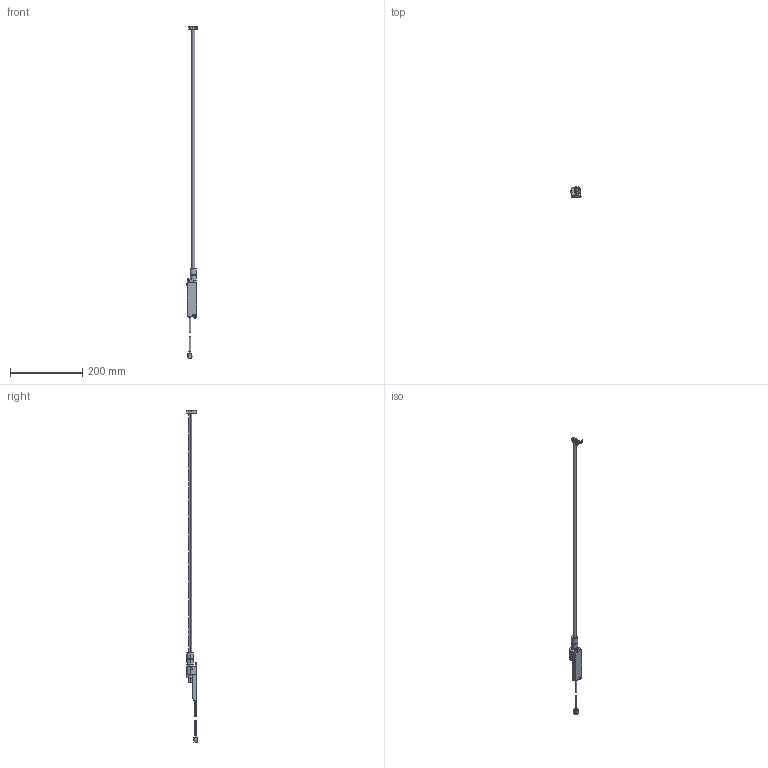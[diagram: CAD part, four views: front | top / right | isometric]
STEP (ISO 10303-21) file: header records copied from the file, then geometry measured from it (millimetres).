
FILE_DESCRIPTION (( 'STEP AP203' ), '1' );
FILE_NAME ('ER-VS01(+ER-VAB065).STEP', '2005-09-05T00:27:46', ( '' ), ( '' ), 'SwSTEP 2.0', 'SolidWorks 2004073', '' );
FILE_SCHEMA (( 'CONFIG_CONTROL_DESIGN' ));
Length unit declared in the file: millimetre
Products named in the file (3): ER-VAB065_蹬怮椔; ER-VS01_蹬怮椔; ER-VS01(+ER-VAB065)
Assembly tree (2 placements, depth 2):
  ER-VS01(+ER-VAB065)
    ER-VS01_蹬怮椔
    ER-VAB065_蹬怮椔
Bounding box: 33 x 28.9 x 919.7 mm (x, y, z)
Volume: 78242.7 mm3; surface area: 44966.5 mm2
Topology: 4 solids, 4 shells, 320 faces, 867 edges, 575 vertices
Faces by surface type: cylinder 203, plane 117
Entity records: 12414 total; most frequent: CARTESIAN_POINT 4143, ORIENTED_EDGE 1734, DIRECTION 1395, EDGE_CURVE 867, VERTEX_POINT 575, EDGE_LOOP 482, AXIS2_PLACEMENT_3D 467, LINE 461
